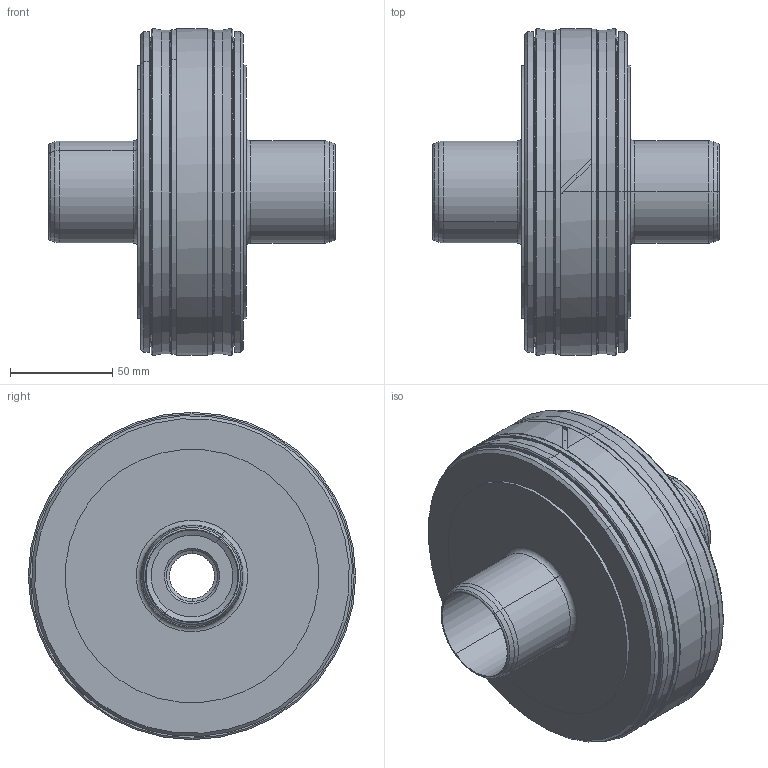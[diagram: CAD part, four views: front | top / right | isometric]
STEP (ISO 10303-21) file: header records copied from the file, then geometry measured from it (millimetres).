
FILE_DESCRIPTION (( 'STEP AP214' ), '1' );
FILE_NAME ('21_507_2.STEP', '2017-01-03T08:55:56', ( '' ), ( '' ), 'SwSTEP 2.0', 'SolidWorks 2016', '' );
FILE_SCHEMA (( 'AUTOMOTIVE_DESIGN' ));
Length unit declared in the file: millimetre
Products named in the file (1): 21_507_2
Bounding box: 140 x 160 x 160 mm (x, y, z)
Volume: 1027383.3 mm3; surface area: 132200.6 mm2
Topology: 2 solids, 2 shells, 149 faces, 325 edges, 198 vertices
Faces by surface type: cylinder 53, plane 38, cone 22, torus 20, bspline 16
Entity records: 4625 total; most frequent: CARTESIAN_POINT 856, DIRECTION 778, ORIENTED_EDGE 650, AXIS2_PLACEMENT_3D 332, EDGE_CURVE 325, VERTEX_POINT 198, CIRCLE 198, EDGE_LOOP 171
